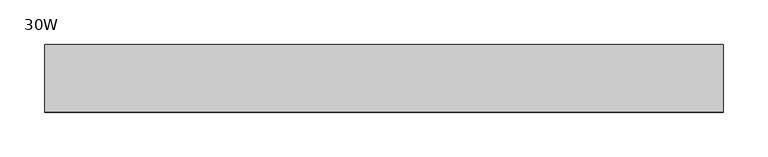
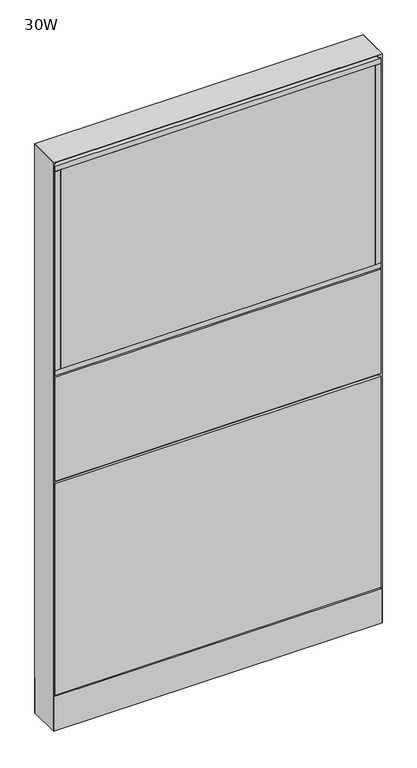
"""IFC4 building model written with IfcOpenShell, lengths in millimetres: furniture geometry, Steelcase - Montage - Frame - 55H - Enhanced Standard - Base Cavity : 30W."""

from ifc_helpers import new_model, si_unit, point, frame, frame_2d, origin, origin_with_axes, place, context, project, spatial, polyline, circle_curve, trimmed, segment, composite_curve, outline, extrude, faceted_brep, source, transform, mapped, element, save


def furniture_30w_f99d1f22(model_context):
    return source(origin(), model_context, "Body", "SolidModel", [
        extrude(outline(polyline([(746.125, 38.1000015), (746.125, 31.7500017), (15.875, 31.7500017), (15.875, 38.1000015), (746.125, 38.1000015)])), frame((0.0, 0.0, 887.4125), z_axis=(0.0, 0.0, 1.0), x_axis=(1.0, 0.0, 0.0)), (0.0, 0.0, 1.0), 488.15625),
        extrude(outline(polyline([(746.125, -31.7499985), (746.125, -38.1000015), (15.875, -38.1000015), (15.875, -31.7499985), (746.125, -31.7499985)])), frame((0.0, 0.0, 887.4125), z_axis=(0.0, 0.0, 1.0), x_axis=(1.0, 0.0, 0.0)), (0.0, 0.0, 1.0), 488.15625),
        extrude(outline(polyline([(15.875, -38.1000015), (3.175, -38.1000015), (3.175, 38.1000015), (15.875, 38.1000015), (15.875, -38.1000015)])), frame((0.0, 0.0, 887.4125), z_axis=(0.0, 0.0, 1.0), x_axis=(1.0, 0.0, 0.0)), (0.0, 0.0, 1.0), 488.15625),
        extrude(outline(polyline([(758.825, -38.1000015), (746.125, -38.1000015), (746.125, 38.1000015), (758.825, 38.1000015), (758.825, -38.1000015)])), frame((0.0, 0.0, 887.4125), z_axis=(0.0, 0.0, 1.0), x_axis=(1.0, 0.0, 0.0)), (0.0, 0.0, 1.0), 488.15625),
        extrude(outline(polyline([(758.825, -38.1000015), (3.175, -38.1000015), (3.175, 38.1000015), (758.825, 38.1000015), (758.825, -38.1000015)])), frame((0.0, 0.0, 1375.56875), z_axis=(0.0, 0.0, 1.0), x_axis=(1.0, 0.0, 0.0)), (0.0, 0.0, 1.0), 12.7),
        extrude(outline(polyline([(758.825, -38.1000015), (3.175, -38.1000015), (3.175, 38.1000015), (758.825, 38.1000015), (758.825, -38.1000015)])), frame((0.0, 0.0, 874.7125), z_axis=(0.0, 0.0, 1.0), x_axis=(1.0, 0.0, 0.0)), (0.0, 0.0, 1.0), 12.7),
        extrude(outline(polyline([(3.175, 31.7500194), (3.175, 38.1000194), (758.825, 38.1000194), (758.825, 31.7500194), (3.175, 31.7500194)])), frame((0.0, 0.0, 615.95), z_axis=(0.0, 0.0, 1.0), x_axis=(1.0, 0.0, 0.0)), (0.0, 0.0, 1.0), 255.5875),
        extrude(outline(polyline([(3.175, 31.7500194), (3.175, 38.1000194), (758.825, 38.1000194), (758.825, 31.7500194), (3.175, 31.7500194)])), frame((0.0, 0.0, 92.075), z_axis=(0.0, 0.0, 1.0), x_axis=(1.0, 0.0, 0.0)), (0.0, 0.0, 1.0), 517.525),
        extrude(outline(polyline([(746.125, -38.1000015), (15.875, -38.1000015), (15.875, -31.7500017), (746.125, -31.7500017), (746.125, -38.1000015)])), frame((0.0, 0.0, 887.4125), z_axis=(0.0, 0.0, 1.0), x_axis=(1.0, 0.0, 0.0)), (0.0, 0.0, 1.0), 488.15625),
        extrude(outline(polyline([(746.125, 31.7499985), (15.875, 31.7499985), (15.875, 38.1000015), (746.125, 38.1000015), (746.125, 31.7499985)])), frame((0.0, 0.0, 887.4125), z_axis=(0.0, 0.0, 1.0), x_axis=(1.0, 0.0, 0.0)), (0.0, 0.0, 1.0), 488.15625),
        extrude(outline(polyline([(15.875, 38.1000015), (15.875, -38.1000015), (3.175, -38.1000015), (3.175, 38.1000015), (15.875, 38.1000015)])), frame((0.0, 0.0, 887.4125), z_axis=(0.0, 0.0, 1.0), x_axis=(1.0, 0.0, 0.0)), (0.0, 0.0, 1.0), 488.15625),
        extrude(outline(polyline([(758.825, 38.1000015), (758.825, -38.1000015), (746.125, -38.1000015), (746.125, 38.1000015), (758.825, 38.1000015)])), frame((0.0, 0.0, 887.4125), z_axis=(0.0, 0.0, 1.0), x_axis=(1.0, 0.0, 0.0)), (0.0, 0.0, 1.0), 488.15625),
        extrude(outline(polyline([(758.825, 38.1000015), (758.825, -38.1000015), (3.175, -38.1000015), (3.175, 38.1000015), (758.825, 38.1000015)])), frame((0.0, 0.0, 1375.56875), z_axis=(0.0, 0.0, 1.0), x_axis=(1.0, 0.0, 0.0)), (0.0, 0.0, 1.0), 12.7),
        extrude(outline(polyline([(758.825, 38.1000015), (758.825, -38.1000015), (3.175, -38.1000015), (3.175, 38.1000015), (758.825, 38.1000015)])), frame((0.0, 0.0, 874.7125), z_axis=(0.0, 0.0, 1.0), x_axis=(1.0, 0.0, 0.0)), (0.0, 0.0, 1.0), 12.7),
        extrude(outline(polyline([(3.175, -31.7500194), (758.825, -31.7500194), (758.825, -38.1000194), (3.175, -38.1000194), (3.175, -31.7500194)])), frame((0.0, 0.0, 615.95), z_axis=(0.0, 0.0, 1.0), x_axis=(1.0, 0.0, 0.0)), (0.0, 0.0, 1.0), 255.5875),
        extrude(outline(polyline([(3.175, -31.7500194), (758.825, -31.7500194), (758.825, -38.1000194), (3.175, -38.1000194), (3.175, -31.7500194)])), frame((0.0, 0.0, 92.075), z_axis=(0.0, 0.0, 1.0), x_axis=(1.0, 0.0, 0.0)), (0.0, 0.0, 1.0), 517.525),
        extrude(outline(polyline([(6.350003, -31.7499985), (755.649997, -31.7499985), (762.0, -38.1000015), (0.0, -38.1000015), (6.350003, -31.7499985)])), frame((0.0, 0.0, 4.064), z_axis=(0.0, 0.0, 1.0), x_axis=(1.0, 0.0, 0.0)), (0.0, 0.0, 1.0), 84.835997),
        extrude(outline(polyline([(6.3500002, 31.7500017), (0.0, 38.1000015), (762.0, 38.1000015), (755.6500002, 31.7500017), (6.3500002, 31.7500017)])), frame((0.0, 0.0, 4.064), z_axis=(0.0, 0.0, 1.0), x_axis=(1.0, 0.0, 0.0)), (0.0, 0.0, 1.0), 84.835997),
        faceted_brep([(762.0, -38.1000015, 1398.5875), (0.0, -38.1000015, 1398.5875), (6.3500484, -31.749953, 1392.2374516), (755.6499516, -31.749953, 1392.2374516), (6.3500484, 31.749953, 1392.2374516), (755.6499516, 31.749953, 1392.2374516), (0.0, 38.1000015, 1398.5875), (762.0, 38.1000015, 1398.5875)], [[[0, 1, 2, 3]], [[3, 2, 4, 5]], [[6, 7, 5, 4]], [[1, 0, 7, 6]], [[2, 1, 6, 4]], [[0, 3, 5, 7]]]),
        extrude(outline(composite_curve([segment(trimmed(circle_curve(frame_2d((44.45, 0.0)), 15.24), [point((29.21, 0.0))], [point((59.69, 0.0))], False, "CARTESIAN"), True, "CONTINUOUS"), segment(trimmed(circle_curve(frame_2d((44.45, 0.0)), 15.24), [point((59.69, 0.0))], [point((29.21, 0.0))], False, "CARTESIAN"), True, "CONTINUOUS")], self_intersect=False)), origin_with_axes(), (0.0, 0.0, 1.0), 4.064),
        extrude(outline(composite_curve([segment(trimmed(circle_curve(frame_2d((717.55, 0.0)), 15.24), [point((702.31, 0.0))], [point((732.79, 0.0))], False, "CARTESIAN"), True, "CONTINUOUS"), segment(trimmed(circle_curve(frame_2d((717.55, 0.0)), 15.24), [point((732.79, 0.0))], [point((702.31, 0.0))], False, "CARTESIAN"), True, "CONTINUOUS")], self_intersect=False)), origin_with_axes(), (0.0, 0.0, 1.0), 4.064),
        faceted_brep([(762.0, -38.1000106, 4.064), (762.0, 38.1000015, 4.064), (762.0, 38.1000015, 1398.5875), (762.0, -38.1000106, 1398.5874637), (0.0, 38.1000015, 4.064), (0.0, -38.1000015, 4.064), (0.0, -38.1000015, 1398.5875), (0.0, 38.1000015, 1398.5875), (755.6499879, 31.7500017, 606.425), (6.35, 31.7500017, 606.425), (6.3499998, 31.7500017, 619.125), (755.6499879, 31.7500017, 619.125), (6.35, -31.7499985, 619.125), (755.6499879, -31.7499985, 619.125), (6.350003, -31.7499985, 606.425), (755.6499879, -31.7499985, 606.425), (6.35, 31.7500015, 4.064), (6.35, -31.7500015, 4.064), (755.6499879, 31.7499894, 4.064), (755.6499879, -31.7499985, 4.064), (6.35, 31.7500015, 1392.2375), (6.35, -31.7500015, 1392.2375), (755.6499879, -31.7499985, 1392.2374516), (755.6499879, 31.7499895, 1392.2374516)], [[[0, 1, 2, 3]], [[4, 5, 6, 7]], [[8, 9, 10, 11]], [[11, 10, 12, 13]], [[13, 12, 14, 15]], [[9, 8, 15, 14]], [[16, 17, 5, 4]], [[18, 1, 0, 19]], [[16, 4, 7, 20, 10, 9]], [[5, 17, 14, 12, 21, 6]], [[12, 10, 20, 21]], [[17, 16, 9, 14]], [[11, 13, 22, 23]], [[18, 19, 15, 8]], [[19, 0, 3, 22, 13, 15]], [[1, 18, 8, 11, 23, 2]], [[7, 6, 21, 20]], [[3, 2, 23, 22]]]),
    ])


if __name__ == "__main__":
    model = new_model("IFC4")
    model_context = context("Model", 3, world=origin())
    ifc_project = project(units=[si_unit("LENGTHUNIT", "METRE", prefix="MILLI")], contexts=[model_context])
    site = spatial("IfcSite", under=ifc_project)
    building = spatial("IfcBuilding", under=site)
    placement = place(None, origin())
    furniture_30w_shape = furniture_30w_f99d1f22(model_context)
    element("IfcFurniture", 1, ObjectType="Steelcase - Montage - Frame - 55H - Enhanced Standard - Base Cavity : 30W", at=placement, inside=building, context=model_context, shape_type="MappedRepresentation", body=[
        mapped(furniture_30w_shape, transform((0.0, 0.0, 0.0), x_axis=(1.0, 0.0, 0.0), y_axis=(0.0, 1.0, 0.0), z_axis=(0.0, 0.0, 1.0))),
    ])
    save(model, "model.ifc")
